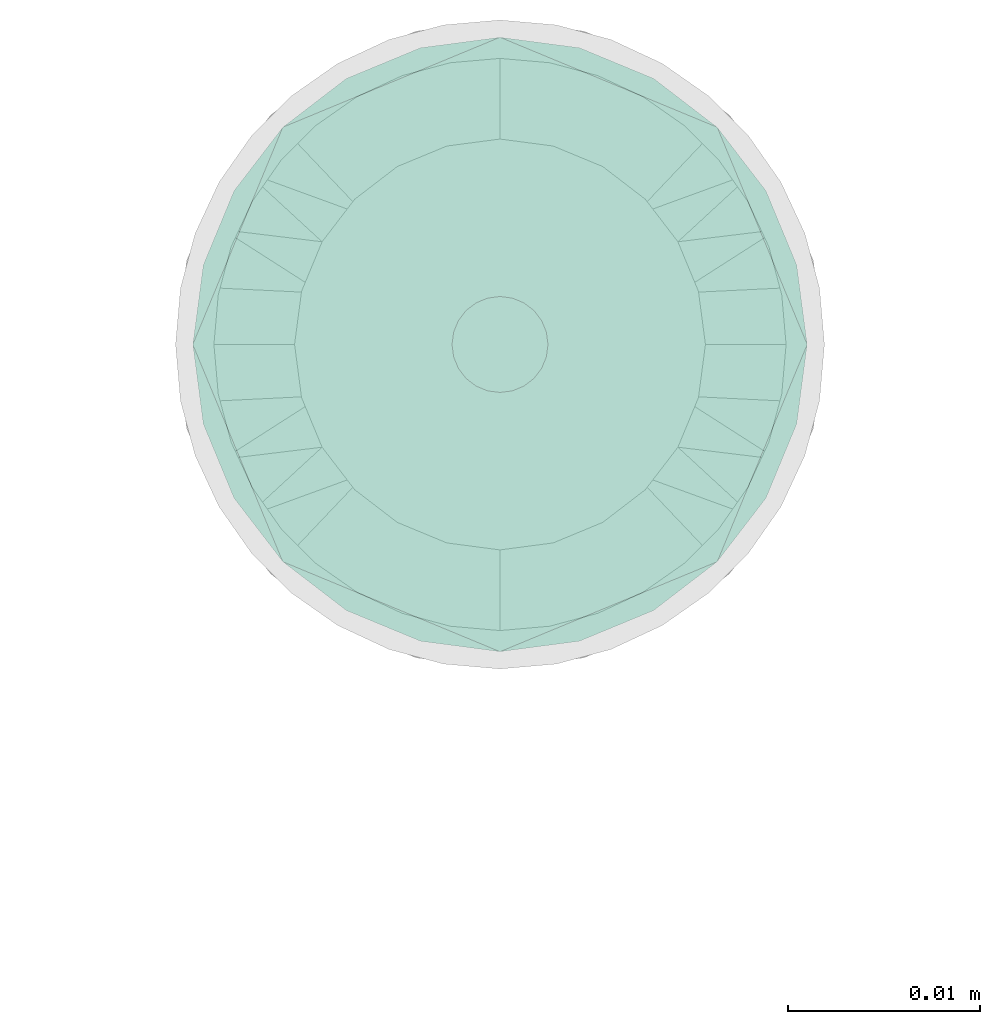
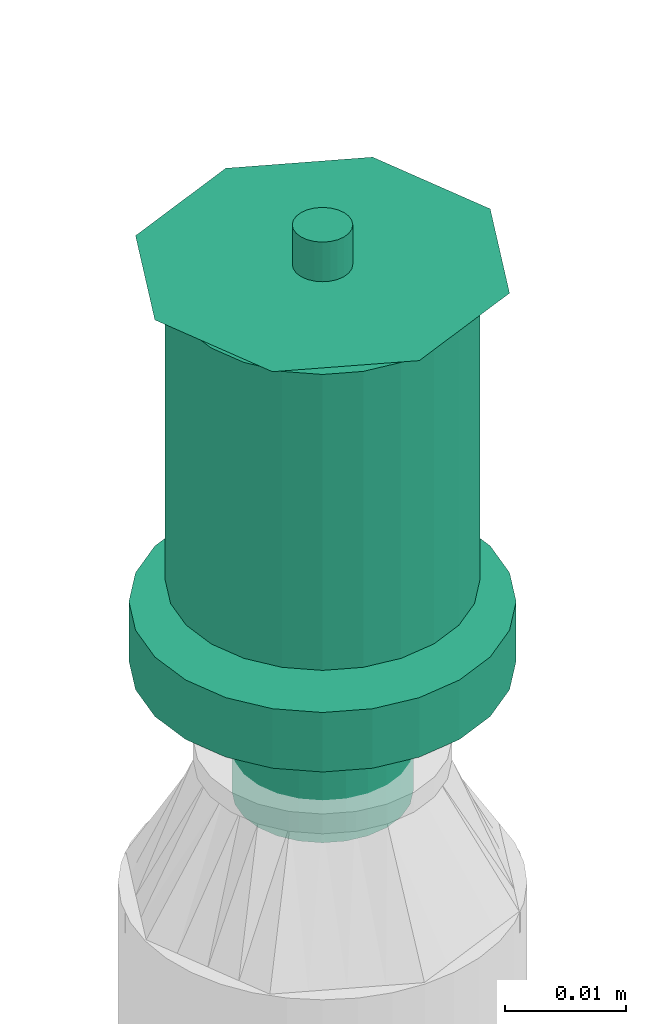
# One storey, part 28 of 44: 1 flow terminal.
"""IFC2X3 building model written with IfcOpenShell, lengths in millimetres."""

import ifcopenshell
import ifcopenshell.guid

model = None  # the IFC model being written
_history = None  # IfcOwnerHistory: only IFC2X3 demands one
_inside = {}  # id of a spatial element -> (the spatial element, [elements in it])
_under = {}  # id of a project, library or spatial element -> (it, [spatial elements below it])
_declared = {}  # id of a project -> (the project, [libraries it declares])
_typed = {}  # id of a type object -> (the type object, [elements of that type])
_made_of = {}  # id of a material, layer set ... -> (it, [elements and type objects made of it])


def new_model(schema):
    """Start an empty IFC model of exactly this schema.

    Asked for "IFC4X3", IfcOpenShell would pick the latest addendum, in which some entities
    have other attributes; the version numbers below select the first issue.
    IFC2X3 requires an IfcOwnerHistory on every rooted entity: one is made here for all.
    """
    global model, _history
    if schema == "IFC4X3":
        model = ifcopenshell.file(schema_version=(4, 3, 0, 0))
    else:
        model = ifcopenshell.file(schema=schema)
    _inside.clear()
    _under.clear()
    _declared.clear()
    _typed.clear()
    _made_of.clear()
    _history = None
    if model.schema == "IFC2X3":
        org = make("IfcOrganization", Name="unknown")
        user = make(
            "IfcPersonAndOrganization",
            ThePerson=make("IfcPerson", FamilyName="unknown"),
            TheOrganization=org,
        )
        app = make(
            "IfcApplication",
            ApplicationDeveloper=org,
            Version="unknown",
            ApplicationFullName="unknown",
            ApplicationIdentifier="unknown",
        )
        _history = make(
            "IfcOwnerHistory",
            OwningUser=user,
            OwningApplication=app,
            ChangeAction="ADDED",
            CreationDate=0,
        )
    return model


def make(cls, **values):
    """One entity of the class cls with the attributes given. An attribute that is None is left unset."""
    return model.create_entity(
        cls, **{name: value for name, value in values.items() if value is not None}
    )


def entity(cls, *values):
    """Any entity or typed value of the class cls, its attributes in the order of the schema. None: left unset."""
    e = model.create_entity(cls)
    for i, value in enumerate(values):
        if value is not None:
            e[i] = value
    return e


def rooted(cls, **values):
    """An entity with a GlobalId (a new one), such as an element, a storey or a relation."""
    return make(cls, GlobalId=ifcopenshell.guid.new(), OwnerHistory=_history, **values)


def si_unit(unit_type, name, prefix=None):
    """IfcSIUnit, for example si_unit("LENGTHUNIT", "METRE", prefix="MILLI")."""
    return make("IfcSIUnit", UnitType=unit_type, Prefix=prefix, Name=name)


def converted_unit(unit_type, name, factor, base, dimensions=None, offset=None):
    """IfcConversionBasedUnit, such as the inch: factor (a typed value) times the base unit."""
    return make(
        "IfcConversionBasedUnit"
        if offset is None
        else "IfcConversionBasedUnitWithOffset",
        ConversionOffset=offset,
        Dimensions=None
        if dimensions is None
        else entity("IfcDimensionalExponents", *dimensions),
        UnitType=unit_type,
        Name=name,
        ConversionFactor=make(
            "IfcMeasureWithUnit", ValueComponent=factor, UnitComponent=base
        ),
    )


def derived_unit(unit_type, elements):
    """IfcDerivedUnit: a product of units, each with its exponent."""
    return make(
        "IfcDerivedUnit",
        Elements=[
            make("IfcDerivedUnitElement", Unit=unit, Exponent=power)
            for unit, power in elements
        ],
        UnitType=unit_type,
    )


def assignment(units):
    """IfcUnitAssignment: the units of a project."""
    return None if units is None else make("IfcUnitAssignment", Units=units)


def point(xyz):
    """IfcCartesianPoint."""
    return None if xyz is None else make("IfcCartesianPoint", Coordinates=xyz)


def direction(xyz):
    """IfcDirection."""
    return None if xyz is None else make("IfcDirection", DirectionRatios=xyz)


def frame(location, z_axis=None, x_axis=None):
    """IfcAxis2Placement3D, a coordinate frame: its origin and axes. An axis left out is left unset."""
    return make(
        "IfcAxis2Placement3D",
        Location=point(location),
        Axis=direction(z_axis),
        RefDirection=direction(x_axis),
    )


def origin_with_axes():
    """The frame at (0, 0, 0) with the z axis (0, 0, 1) and the x axis (1, 0, 0) written out."""
    return frame((0.0, 0.0, 0.0), z_axis=(0.0, 0.0, 1.0), x_axis=(1.0, 0.0, 0.0))


def place(relative_to, where):
    """IfcLocalPlacement: puts the frame where relative to a parent placement (None: the world)."""
    return make(
        "IfcLocalPlacement", PlacementRelTo=relative_to, RelativePlacement=where
    )


def context(
    kind, dimensions, precision=None, world=None, true_north=None, identifier=None
):
    """IfcGeometricRepresentationContext, for example the 3D "Model" context."""
    return make(
        "IfcGeometricRepresentationContext",
        ContextIdentifier=identifier,
        ContextType=kind,
        CoordinateSpaceDimension=dimensions,
        Precision=precision,
        WorldCoordinateSystem=world,
        TrueNorth=true_north,
    )


def subcontext(parent, identifier, kind, view, scale=None):
    """IfcGeometricRepresentationSubContext, for example "Body" below "Model"."""
    return make(
        "IfcGeometricRepresentationSubContext",
        ContextIdentifier=identifier,
        ContextType=kind,
        ParentContext=parent,
        TargetScale=scale,
        TargetView=view,
    )


def project(units=None, contexts=None):
    """IfcProject with its units and contexts."""
    return rooted(
        "IfcProject",
        Name="project",
        RepresentationContexts=contexts,
        UnitsInContext=assignment(units),
    )


def spatial(cls, under=None, at=None, **own):
    """A site, building, storey or space (cls), placed at a placement, below another one or the project."""
    s = rooted(cls, ObjectPlacement=at, **own)
    if under is not None:
        _under.setdefault(under.id(), (under, []))[1].append(s)
    return s


def faces_of(points, faces, orient=None, outer=None):
    """IfcFace entities. A face is a list of loops; a loop is a list of indices into points, from 0.

    orient and outer hold one flag for each loop. By default every Orientation is true, the
    first loop of a face is its IfcFaceOuterBound and the others are IfcFaceBound.
    """
    made = []
    for i, loops in enumerate(faces):
        bounds = []
        for j, loop in enumerate(loops):
            is_outer = j == 0 if outer is None else outer[i][j]
            bounds.append(
                make(
                    "IfcFaceOuterBound" if is_outer else "IfcFaceBound",
                    Bound=make("IfcPolyLoop", Polygon=[points[k] for k in loop]),
                    Orientation=True if orient is None else orient[i][j],
                )
            )
        made.append(make("IfcFace", Bounds=bounds))
    return made


def open_shell(faces, orient=None, outer=None):
    """The faces of one IfcOpenShell. surface_model builds it on its shared points."""
    return ("IfcOpenShell", faces, orient, outer)


def surface_model(cls, points, shells):
    """IfcFaceBasedSurfaceModel or IfcShellBasedSurfaceModel (cls): surfaces that need not close."""
    shared = [point(p) for p in points]
    made = [make(c, CfsFaces=faces_of(shared, fs, o, b)) for c, fs, o, b in shells]
    if cls == "IfcFaceBasedSurfaceModel":
        return make(cls, FbsmFaces=made)
    return make(cls, SbsmBoundary=made)


def shape(context_of_items, identifier, shape_type, items):
    """IfcShapeRepresentation: the items that make up one representation, for example the "Body"."""
    return make(
        "IfcShapeRepresentation",
        ContextOfItems=context_of_items,
        RepresentationIdentifier=identifier,
        RepresentationType=shape_type,
        Items=items,
    )


def source(mapping_origin, context_of_items, identifier, shape_type, items):
    """IfcRepresentationMap: a shape defined once, which mapped items show again and again."""
    return make(
        "IfcRepresentationMap",
        MappingOrigin=mapping_origin,
        MappedRepresentation=shape(context_of_items, identifier, shape_type, items),
    )


def transform(
    local_origin,
    x_axis=None,
    y_axis=None,
    z_axis=None,
    scale=None,
    scale2=None,
    scale3=None,
    uniform=True,
):
    """IfcCartesianTransformationOperator3D, or its non-uniform kind. x_axis, y_axis, z_axis: its Axis1, 2, 3."""
    if uniform:
        return make(
            "IfcCartesianTransformationOperator3D",
            Axis1=direction(x_axis),
            Axis2=direction(y_axis),
            LocalOrigin=point(local_origin),
            Scale=scale,
            Axis3=direction(z_axis),
        )
    return make(
        "IfcCartesianTransformationOperator3DnonUniform",
        Axis1=direction(x_axis),
        Axis2=direction(y_axis),
        LocalOrigin=point(local_origin),
        Scale=scale,
        Axis3=direction(z_axis),
        Scale2=scale2,
        Scale3=scale3,
    )


def mapped(mapping_source, mapping_target):
    """IfcMappedItem: shows the shape of a source again, moved by a transform."""
    return make(
        "IfcMappedItem", MappingSource=mapping_source, MappingTarget=mapping_target
    )


def made_of(thing, what):
    """Note that an element or type object is made of a material, layer set ...; save() writes the relation."""
    if what is not None:
        _made_of.setdefault(what.id(), (what, []))[1].append(thing)
    return thing


def type_object(cls, material=None, **own):
    """A type object (cls), such as IfcWallType, which elements share."""
    return made_of(rooted(cls, **own), material)


def element(
    cls,
    number,
    at=None,
    inside=None,
    cuts=None,
    type_object=None,
    material=None,
    context=None,
    identifier="Body",
    shape_type=None,
    held_by="IfcProductDefinitionShape",
    body=None,
    shapes=None,
    **own,
):
    """One element of the class cls, such as IfcWall. Its Tag is "e" and its number.

    at: its placement. inside: the storey or other place that contains it. cuts: it is an
    opening in that element (IfcRelVoidsElement). A single representation is given by context,
    identifier, shape_type and body (its items); several are given by shapes. held_by: the class
    of the entity that holds the representations. save() writes the other relations.
    """
    e = rooted(cls, Tag="e%d" % number, ObjectPlacement=at, **own)
    if body is not None:
        shapes = [shape(context, identifier, shape_type, body)]
    if shapes is not None:
        e.Representation = make(held_by, Representations=shapes)
    if inside is not None:
        _inside.setdefault(inside.id(), (inside, []))[1].append(e)
    if cuts is not None:
        rooted(
            "IfcRelVoidsElement", RelatingBuildingElement=cuts, RelatedOpeningElement=e
        )
    if type_object is not None:
        _typed.setdefault(type_object.id(), (type_object, []))[1].append(e)
    return made_of(e, material)


def aggregate(whole, parts):
    """IfcRelAggregates: a whole, such as a stair, and the parts it consists of."""
    return rooted("IfcRelAggregates", RelatingObject=whole, RelatedObjects=parts)


def save(model, path):
    """Write the relations noted so far, then the file.

    IfcRelAggregates (storeys below a building ...), IfcRelContainedInSpatialStructure (elements
    in a storey), IfcRelDefinesByType, IfcRelAssociatesMaterial and IfcRelDeclares: one each for
    every whole, place, type object, material and project.
    """
    for whole, parts in _under.values():
        aggregate(whole, parts)
    for where, things in _inside.values():
        rooted(
            "IfcRelContainedInSpatialStructure",
            RelatedElements=things,
            RelatingStructure=where,
        )
    for kind, things in _typed.values():
        rooted("IfcRelDefinesByType", RelatedObjects=things, RelatingType=kind)
    for what, things in _made_of.values():
        rooted("IfcRelAssociatesMaterial", RelatedObjects=things, RelatingMaterial=what)
    for by, libraries in _declared.values():
        rooted("IfcRelDeclares", RelatingContext=by, RelatedDefinitions=libraries)
    model.write(path)


model = new_model("IFC2X3")

# Units and contexts
model_context = context("Model", 3, precision=0.01, world=frame((0.0, 4.29681676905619e-09, 0.0)), true_north=direction((4.01073788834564e-13, 1.0)))
plan_context = context("Plan", 3, precision=0.01, world=frame((0.0, 4.29681676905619e-09, 0.0)), true_north=direction((4.01073788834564e-13, 1.0)))
body_context = subcontext(model_context, "Body", "Model", "MODEL_VIEW")
ifc_project = project(units=[converted_unit("PLANEANGLEUNIT", "DEGREE", entity("IfcPositiveLengthMeasure", 0.0174532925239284), si_unit("PLANEANGLEUNIT", "RADIAN"), dimensions=[0, 0, 0, 0, 0, 0, 0]), si_unit("AREAUNIT", "SQUARE_METRE"), si_unit("LENGTHUNIT", "METRE", prefix="MILLI"), si_unit("MASSUNIT", "GRAM", prefix="KILO"), si_unit("POWERUNIT", "WATT"), si_unit("PRESSUREUNIT", "PASCAL"), si_unit("FORCEUNIT", "NEWTON", prefix="KILO"), si_unit("ELECTRICVOLTAGEUNIT", "VOLT"), si_unit("ELECTRICCURRENTUNIT", "AMPERE"), si_unit("THERMODYNAMICTEMPERATUREUNIT", "DEGREE_CELSIUS"), si_unit("TIMEUNIT", "SECOND"), si_unit("VOLUMEUNIT", "CUBIC_METRE"), derived_unit("LINEARVELOCITYUNIT", [(si_unit("LENGTHUNIT", "METRE"), 1), (si_unit("TIMEUNIT", "SECOND"), -1)]), derived_unit("VOLUMETRICFLOWRATEUNIT", [(si_unit("VOLUMEUNIT", "CUBIC_METRE"), 1), (si_unit("TIMEUNIT", "SECOND"), -1)]), derived_unit("THERMALTRANSMITTANCEUNIT", [(si_unit("POWERUNIT", "WATT"), 1), (si_unit("THERMODYNAMICTEMPERATUREUNIT", "KELVIN"), -1), (si_unit("AREAUNIT", "SQUARE_METRE"), -1)]), derived_unit("SOUNDPRESSUREUNIT", [(si_unit("PRESSUREUNIT", "PASCAL"), 1)])], contexts=[model_context, plan_context])

# Site, building, storey
site_placement = place(None, frame((0.0, -4.29681676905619e-09, 0.0), z_axis=(0.0, 0.0, 1.0), x_axis=(1.0, 0.0, 0.0)))
site = spatial("IfcSite", under=ifc_project, at=site_placement, CompositionType="ELEMENT")
building_placement = place(site_placement, frame((0.0, 4.29681676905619e-09, 0.0), z_axis=(0.0, 0.0, 1.0), x_axis=(1.0, 0.0, 0.0)))
building = spatial("IfcBuilding", under=site, at=building_placement, Name="mc-building", CompositionType="ELEMENT")
storey_placement = place(building_placement, frame((0.0, 0.0, 207370.0), z_axis=(0.0, 0.0, 1.0), x_axis=(1.0, 0.0, 0.0)))
storey = spatial("IfcBuildingStorey", under=building, at=storey_placement, Name="Nivå E", CompositionType="ELEMENT", Elevation=207370.0)

# Flow terminal
fire_suppression_terminal_type = type_object("IfcFireSuppressionTerminalType", Name="68DGR-STD-STÅENDE", PredefinedType="NOTDEFINED")
shared_shape = source(origin_with_axes(), body_context, "Body", "SurfaceModel", [
    surface_model("IfcShellBasedSurfaceModel", [(3.36465, -12.55704, 51.0), (6.5, -11.25833, 51.0), (9.19239, -9.19239, 51.0), (12.55704, -3.36465, 51.0), (-11.25833, -6.5, 51.0), (11.25833, -6.5, 51.0), (-13.0, 0.0, 51.0), (0.0, -13.0, 51.0), (-6.5, -11.25833, 51.0), (-3.36465, -12.55704, 51.0), (-9.19239, -9.19239, 51.0), (-12.55704, -3.36465, 51.0), (13.0, 0.0, 51.0), (12.55704, 3.36465, 51.0), (11.25833, 6.5, 51.0), (9.19239, 9.19239, 51.0), (6.5, 11.25833, 51.0), (3.36465, 12.55704, 51.0), (0.0, 13.0, 51.0), (-3.36465, 12.55704, 51.0), (-12.55704, 3.36465, 51.0), (-9.19239, 9.19239, 51.0), (-11.25833, 6.5, 51.0), (-6.5, 11.25833, 51.0), (0.0, 13.0, 21.14766), (3.36465, 12.55704, 21.14766), (6.5, 11.25833, 21.14766), (-3.36465, 12.55704, 21.14766), (9.19239, 9.19239, 21.14766), (11.25833, 6.5, 21.14766), (12.55704, 3.36465, 21.14766), (-12.55704, 3.36465, 21.14766), (-11.25833, -6.5, 21.14766), (-9.19239, 9.19239, 21.14766), (-6.5, 11.25833, 21.14766), (-11.25833, 6.5, 21.14766), (-13.0, 0.0, 21.14766), (12.55704, -3.36465, 21.14766), (9.19239, -9.19239, 21.14766), (11.25833, -6.5, 21.14766), (6.5, -11.25833, 21.14766), (3.36465, -12.55704, 21.14766), (-6.5, -11.25833, 21.14766), (-9.19239, -9.19239, 21.14766), (-12.55704, -3.36465, 21.14766), (0.0, -13.0, 21.14766), (-3.36465, -12.55704, 21.14766), (13.0, 0.0, 21.14766), (7.24444, -1.94114, 0.1), (1.94114, -7.24444, 0.1), (3.75, -6.49519, 0.1), (5.3033, -5.3033, 0.1), (-5.3033, -5.3033, 0.1), (6.49519, -3.75, 0.1), (5.3033, 5.3033, 0.1), (0.0, -7.5, 0.1), (-3.75, -6.49519, 0.1), (-1.94114, -7.24444, 0.1), (-7.24444, -1.94114, 0.1), (-6.49519, -3.75, 0.1), (-7.24444, 1.94114, 0.1), (7.5, 0.0, 0.1), (6.49519, 3.75, 0.1), (-6.49519, 3.75, 0.1), (1.94114, 7.24444, 0.1), (0.0, 7.5, 0.1), (3.75, 6.49519, 0.1), (-7.5, 0.0, 0.1), (-5.3033, 5.3033, 0.1), (-1.94114, 7.24444, 0.1), (-3.75, 6.49519, 0.1), (7.24444, 1.94114, 0.1), (1.94114, 7.24444, -0.1), (-6.49519, 3.75, -0.1), (0.0, 7.5, -0.1), (5.3033, 5.3033, -0.1), (3.75, 6.49519, -0.1), (6.49519, 3.75, -0.1), (7.24444, 1.94114, -0.1), (-1.94114, 7.24444, -0.1), (-5.3033, 5.3033, -0.1), (-3.75, 6.49519, -0.1), (-7.24444, 1.94114, -0.1), (-7.24444, -1.94114, -0.1), (-7.5, 0.0, -0.1), (7.5, 0.0, -0.1), (7.24444, -1.94114, -0.1), (-5.3033, -5.3033, -0.1), (1.94114, -7.24444, -0.1), (6.49519, -3.75, -0.1), (5.3033, -5.3033, -0.1), (3.75, -6.49519, -0.1), (-6.49519, -3.75, -0.1), (-3.75, -6.49519, -0.1), (0.0, -7.5, -0.1), (-1.94114, -7.24444, -0.1), (0.0, -2.5, 51.0), (-2.5, 0.0, 51.0), (0.0, 2.5, 51.0), (2.5, 0.0, 51.0), (0.0, -16.0, 53.0), (11.31371, -11.31371, 53.0), (-11.31371, -11.31371, 53.0), (-16.0, 0.0, 53.0), (16.0, 0.0, 53.0), (11.31371, 11.31371, 53.0), (0.0, 16.0, 53.0), (-11.31371, 11.31371, 53.0), (1.25, -2.16506, 57.0), (0.0, -2.5, 57.0), (0.64705, -2.41481, 57.0), (2.41481, -0.64705, 57.0), (1.76777, -1.76777, 57.0), (-2.41481, -0.64705, 57.0), (-2.5, 0.0, 57.0), (2.16506, -1.25, 57.0), (-1.25, -2.16506, 57.0), (-0.64705, -2.41481, 57.0), (-1.76777, -1.76777, 57.0), (-2.16506, -1.25, 57.0), (2.5, 0.0, 57.0), (2.41481, 0.64705, 57.0), (2.16506, 1.25, 57.0), (1.76777, 1.76777, 57.0), (0.64705, 2.41481, 57.0), (1.25, 2.16506, 57.0), (-1.76777, 1.76777, 57.0), (0.0, 2.5, 57.0), (-2.16506, 1.25, 57.0), (-2.41481, 0.64705, 57.0), (-0.64705, 2.41481, 57.0), (-1.25, 2.16506, 57.0), (1.25, 2.16506, 51.0), (1.76777, 1.76777, 51.0), (1.15, 1.99186, 51.0), (0.59528, 2.22163, 51.0), (0.64705, 2.41481, 51.0), (0.0, 2.3, 51.0), (1.62635, 1.62635, 51.0), (2.41481, 0.64705, 51.0), (2.3, 0.0, 51.0), (2.22163, 0.59528, 51.0), (2.16506, 1.25, 51.0), (1.99186, 1.15, 51.0), (-0.59528, 2.22163, 51.0), (-0.64705, 2.41481, 51.0), (-1.15, 1.99186, 51.0), (-1.76777, 1.76777, 51.0), (-1.25, 2.16506, 51.0), (-1.62635, 1.62635, 51.0), (-1.99186, 1.15, 51.0), (-2.16506, 1.25, 51.0), (-2.22163, 0.59528, 51.0), (-2.41481, 0.64705, 51.0), (-2.3, 0.0, 51.0), (2.41481, -0.64705, 51.0), (2.22163, -0.59528, 51.0), (1.99186, -1.15, 51.0), (2.16506, -1.25, 51.0), (1.62635, -1.62635, 51.0), (1.76777, -1.76777, 51.0), (1.25, -2.16506, 51.0), (1.15, -1.99186, 51.0), (0.59528, -2.22163, 51.0), (0.64705, -2.41481, 51.0), (0.0, -2.3, 51.0), (-2.16506, -1.25, 51.0), (-1.99186, -1.15, 51.0), (-1.76777, -1.76777, 51.0), (-1.62635, -1.62635, 51.0), (-2.41481, -0.64705, 51.0), (-2.22163, -0.59528, 51.0), (-0.59528, -2.22163, 51.0), (-0.64705, -2.41481, 51.0), (-1.15, -1.99186, 51.0), (-1.25, -2.16506, 51.0), (1.62635, -1.62635, 56.8), (1.15, -1.99186, 56.8), (0.59528, -2.22163, 56.8), (0.0, -2.3, 56.8), (2.22163, 0.59528, 56.8), (1.99186, -1.15, 56.8), (2.22163, -0.59528, 56.8), (-0.59528, -2.22163, 56.8), (-1.15, -1.99186, 56.8), (-1.62635, -1.62635, 56.8), (-1.99186, -1.15, 56.8), (-2.22163, -0.59528, 56.8), (-1.99186, 1.15, 56.8), (2.3, 0.0, 56.8), (1.62635, 1.62635, 56.8), (1.99186, 1.15, 56.8), (1.15, 1.99186, 56.8), (0.0, 2.3, 56.8), (0.59528, 2.22163, 56.8), (-2.22163, 0.59528, 56.8), (-2.3, 0.0, 56.8), (-1.15, 1.99186, 56.8), (-0.59528, 2.22163, 56.8), (-1.62635, 1.62635, 56.8), (4.1411, -15.45481, 19.0), (8.0, -13.85641, 19.0), (11.31371, -11.31371, 19.0), (-8.0, -13.85641, 19.0), (15.45481, -4.1411, 19.0), (16.0, 0.0, 19.0), (13.85641, -8.0, 19.0), (0.0, -16.0, 19.0), (-4.1411, -15.45481, 19.0), (-13.85641, -8.0, 19.0), (-11.31371, -11.31371, 19.0), (-15.45481, -4.1411, 19.0), (15.45481, 4.1411, 19.0), (13.85641, 8.0, 19.0), (11.31371, 11.31371, 19.0), (-4.1411, 15.45481, 19.0), (8.0, 13.85641, 19.0), (4.1411, 15.45481, 19.0), (0.0, 16.0, 19.0), (-13.85641, 8.0, 19.0), (-15.45481, 4.1411, 19.0), (-16.0, 0.0, 19.0), (-11.31371, 11.31371, 19.0), (-8.0, 13.85641, 19.0), (0.0, 16.0, 13.0), (4.1411, 15.45481, 13.0), (8.0, 13.85641, 13.0), (-4.1411, 15.45481, 13.0), (11.31371, 11.31371, 13.0), (13.85641, 8.0, 13.0), (15.45481, 4.1411, 13.0), (-15.45481, -4.1411, 13.0), (-11.31371, 11.31371, 13.0), (-8.0, 13.85641, 13.0), (-13.85641, 8.0, 13.0), (-15.45481, 4.1411, 13.0), (-16.0, 0.0, 13.0), (4.1411, -15.45481, 13.0), (16.0, 0.0, 13.0), (15.45481, -4.1411, 13.0), (13.85641, -8.0, 13.0), (11.31371, -11.31371, 13.0), (8.0, -13.85641, 13.0), (-8.0, -13.85641, 13.0), (-13.85641, -8.0, 13.0), (-11.31371, -11.31371, 13.0), (0.0, -16.0, 13.0), (-4.1411, -15.45481, 13.0), (7.24444, -1.94114, 13.0), (1.94114, -7.24444, 13.0), (3.75, -6.49519, 13.0), (5.3033, -5.3033, 13.0), (-5.3033, -5.3033, 13.0), (6.49519, -3.75, 13.0), (5.3033, 5.3033, 13.0), (0.0, -7.5, 13.0), (-3.75, -6.49519, 13.0), (-1.94114, -7.24444, 13.0), (-7.24444, -1.94114, 13.0), (-6.49519, -3.75, 13.0), (-7.24444, 1.94114, 13.0), (7.5, 0.0, 13.0), (6.49519, 3.75, 13.0), (-6.49519, 3.75, 13.0), (1.94114, 7.24444, 13.0), (0.0, 7.5, 13.0), (3.75, 6.49519, 13.0), (-7.5, 0.0, 13.0), (-5.3033, 5.3033, 13.0), (-1.94114, 7.24444, 13.0), (-3.75, 6.49519, 13.0), (7.24444, 1.94114, 13.0), (3.75, 6.49519, 0.0), (5.3033, 5.3033, 0.0), (3.65, 6.32199, 0.0), (1.88938, 7.05126, 0.0), (0.0, 7.3, 0.0), (1.94114, 7.24444, 0.0), (0.0, 7.5, 0.0), (5.16188, 5.16188, 0.0), (7.24444, 1.94114, 0.0), (7.3, 0.0, 0.0), (7.05126, 1.88938, 0.0), (7.5, 0.0, 0.0), (6.49519, 3.75, 0.0), (6.32199, 3.65, 0.0), (-1.88938, 7.05126, 0.0), (-1.94114, 7.24444, 0.0), (-3.65, 6.32199, 0.0), (-5.3033, 5.3033, 0.0), (-3.75, 6.49519, 0.0), (-5.16188, 5.16188, 0.0), (-6.32199, 3.65, 0.0), (-6.49519, 3.75, 0.0), (-7.05126, 1.88938, 0.0), (-7.24444, 1.94114, 0.0), (-7.3, 0.0, 0.0), (-7.5, 0.0, 0.0), (7.24444, -1.94114, 0.0), (7.05126, -1.88938, 0.0), (6.32199, -3.65, 0.0), (6.49519, -3.75, 0.0), (5.16188, -5.16188, 0.0), (5.3033, -5.3033, 0.0), (3.75, -6.49519, 0.0), (3.65, -6.32199, 0.0), (1.88938, -7.05126, 0.0), (1.94114, -7.24444, 0.0), (0.0, -7.3, 0.0), (0.0, -7.5, 0.0), (-6.49519, -3.75, 0.0), (-6.32199, -3.65, 0.0), (-5.3033, -5.3033, 0.0), (-5.16188, -5.16188, 0.0), (-7.24444, -1.94114, 0.0), (-7.05126, -1.88938, 0.0), (-1.88938, -7.05126, 0.0), (-1.94114, -7.24444, 0.0), (-3.65, -6.32199, 0.0), (-3.75, -6.49519, 0.0), (1.88938, -7.05126, 12.8), (0.0, -7.3, 12.8), (3.65, -6.32199, 12.8), (5.16188, -5.16188, 12.8), (6.32199, -3.65, 12.8), (7.05126, 1.88938, 12.8), (7.05126, -1.88938, 12.8), (-5.16188, -5.16188, 12.8), (-1.88938, -7.05126, 12.8), (-3.65, -6.32199, 12.8), (-6.32199, -3.65, 12.8), (-7.05126, -1.88938, 12.8), (0.0, 7.3, 12.8), (7.3, 0.0, 12.8), (6.32199, 3.65, 12.8), (5.16188, 5.16188, 12.8), (3.65, 6.32199, 12.8), (1.88938, 7.05126, 12.8), (-6.32199, 3.65, 12.8), (-7.05126, 1.88938, 12.8), (-7.3, 0.0, 12.8), (-3.65, 6.32199, 12.8), (-1.88938, 7.05126, 12.8), (-5.16188, 5.16188, 12.8)], [open_shell([[[0, 1, 2]], [[0, 2, 3]], [[0, 3, 4]], [[3, 2, 5]], [[6, 4, 3]], [[7, 8, 9]], [[7, 0, 8]], [[8, 4, 10]], [[0, 4, 8]], [[4, 6, 11]], [[6, 3, 12]], [[13, 14, 15]], [[6, 13, 15]], [[16, 17, 18]], [[15, 16, 19]], [[18, 19, 16]], [[20, 21, 22]], [[20, 6, 15]], [[21, 19, 23]], [[19, 21, 20]], [[15, 19, 20]], [[13, 6, 12]], [[24, 25, 26]], [[27, 24, 26]], [[28, 29, 30]], [[26, 28, 31]], [[28, 32, 31]], [[27, 33, 34]], [[33, 27, 31]], [[33, 31, 35]], [[27, 26, 31]], [[31, 32, 36]], [[32, 28, 30]], [[32, 30, 37]], [[38, 37, 39]], [[38, 40, 41]], [[38, 41, 37]], [[32, 37, 41]], [[32, 42, 43]], [[44, 36, 32]], [[42, 45, 46]], [[42, 32, 41]], [[45, 42, 41]], [[30, 47, 37]], [[4, 32, 43]], [[8, 42, 46]], [[43, 42, 10]], [[9, 46, 45]], [[36, 11, 6]], [[11, 36, 44]], [[11, 44, 4]], [[44, 32, 4]], [[43, 10, 4]], [[8, 10, 42]], [[46, 9, 8]], [[45, 7, 9]], [[0, 41, 40]], [[38, 1, 40]], [[5, 39, 37]], [[38, 39, 2]], [[3, 37, 47]], [[41, 0, 7]], [[40, 1, 0]], [[38, 2, 1]], [[39, 5, 2]], [[3, 5, 37]], [[47, 12, 3]], [[41, 7, 45]], [[30, 13, 47]], [[29, 14, 30]], [[25, 24, 17]], [[15, 29, 28]], [[30, 14, 13]], [[13, 12, 47]], [[16, 26, 17]], [[16, 15, 28]], [[26, 25, 17]], [[15, 14, 29]], [[28, 26, 16]], [[24, 18, 17]], [[19, 27, 34]], [[33, 23, 34]], [[22, 35, 31]], [[33, 35, 21]], [[20, 31, 36]], [[27, 19, 18]], [[34, 23, 19]], [[33, 21, 23]], [[35, 22, 21]], [[20, 22, 31]], [[36, 6, 20]], [[27, 18, 24]], [[48, 49, 50]], [[48, 50, 51]], [[49, 48, 52]], [[48, 51, 53]], [[54, 52, 48]], [[55, 56, 57]], [[56, 55, 52]], [[52, 58, 59]], [[52, 55, 49]], [[52, 60, 58]], [[54, 48, 61]], [[62, 54, 61]], [[54, 63, 52]], [[64, 65, 54]], [[64, 54, 66]], [[63, 54, 65]], [[63, 60, 52]], [[67, 58, 60]], [[68, 69, 70]], [[69, 68, 63]], [[69, 63, 65]], [[71, 62, 61]], [[72, 73, 74]], [[75, 72, 76]], [[75, 77, 78]], [[72, 75, 73]], [[78, 73, 75]], [[79, 80, 81]], [[80, 79, 73]], [[74, 73, 79]], [[78, 82, 73]], [[82, 83, 84]], [[82, 78, 85]], [[86, 87, 85]], [[88, 86, 89]], [[90, 91, 88]], [[90, 88, 89]], [[87, 86, 88]], [[83, 87, 92]], [[83, 85, 87]], [[93, 94, 95]], [[94, 93, 87]], [[88, 94, 87]], [[85, 83, 82]], [[83, 58, 84]], [[92, 59, 83]], [[56, 87, 93]], [[92, 87, 52]], [[57, 93, 95]], [[83, 59, 58]], [[58, 67, 84]], [[57, 56, 93]], [[52, 87, 56]], [[52, 59, 92]], [[55, 57, 95]], [[95, 94, 55]], [[88, 49, 94]], [[91, 50, 88]], [[53, 90, 89]], [[91, 90, 51]], [[48, 89, 86]], [[91, 51, 50]], [[50, 49, 88]], [[61, 48, 86]], [[53, 89, 48]], [[53, 51, 90]], [[85, 61, 86]], [[94, 49, 55]], [[78, 71, 85]], [[77, 62, 78]], [[66, 75, 76]], [[77, 75, 54]], [[64, 76, 72]], [[78, 62, 71]], [[71, 61, 85]], [[64, 66, 76]], [[54, 75, 66]], [[54, 62, 77]], [[65, 64, 72]], [[72, 74, 65]], [[79, 69, 74]], [[81, 70, 79]], [[63, 80, 73]], [[81, 80, 68]], [[60, 73, 82]], [[81, 68, 70]], [[70, 69, 79]], [[67, 60, 82]], [[63, 73, 60]], [[63, 68, 80]], [[84, 67, 82]], [[74, 69, 65]], [[96, 97, 98]], [[98, 99, 96]], [[100, 101, 102]], [[103, 102, 101]], [[101, 104, 103]], [[104, 105, 106]], [[107, 103, 106]], [[106, 103, 104]], [[99, 98, 105]], [[105, 104, 99]], [[98, 106, 105]], [[98, 107, 106]], [[107, 98, 97]], [[103, 107, 97]], [[97, 96, 102]], [[102, 103, 97]], [[96, 100, 102]], [[96, 101, 100]], [[101, 96, 99]], [[104, 101, 99]], [[108, 109, 110]], [[111, 108, 112]], [[113, 108, 114]], [[111, 112, 115]], [[108, 111, 114]], [[109, 116, 117]], [[116, 109, 118]], [[118, 113, 119]], [[118, 109, 108]], [[108, 113, 118]], [[111, 120, 114]], [[121, 122, 123]], [[114, 121, 123]], [[114, 123, 124]], [[124, 123, 125]], [[126, 124, 127]], [[124, 128, 129]], [[129, 114, 124]], [[126, 130, 131]], [[128, 124, 126]], [[130, 126, 127]], [[121, 114, 120]], [[132, 133, 134]], [[132, 134, 135]], [[136, 135, 137]], [[135, 136, 132]], [[136, 137, 98]], [[134, 133, 138]], [[139, 140, 141]], [[140, 139, 99]], [[139, 141, 142]], [[138, 142, 143]], [[142, 138, 133]], [[143, 142, 141]], [[98, 144, 145]], [[98, 137, 144]], [[145, 144, 146]], [[147, 148, 149]], [[146, 148, 145]], [[149, 148, 146]], [[150, 151, 147]], [[151, 150, 152]], [[150, 147, 149]], [[153, 152, 154]], [[152, 153, 151]], [[153, 154, 97]], [[99, 155, 156]], [[156, 155, 157]], [[157, 158, 159]], [[158, 157, 155]], [[159, 158, 160]], [[160, 161, 162]], [[162, 161, 163]], [[163, 164, 165]], [[164, 163, 161]], [[165, 164, 96]], [[162, 159, 160]], [[166, 167, 168]], [[168, 167, 169]], [[167, 166, 170]], [[97, 171, 170]], [[170, 171, 167]], [[97, 154, 171]], [[172, 96, 173]], [[172, 173, 174]], [[169, 175, 168]], [[175, 169, 174]], [[175, 174, 173]], [[165, 96, 172]], [[156, 140, 99]], [[170, 113, 97]], [[166, 119, 170]], [[116, 168, 175]], [[166, 168, 118]], [[117, 175, 173]], [[170, 119, 113]], [[113, 114, 97]], [[117, 116, 175]], [[118, 168, 116]], [[118, 119, 166]], [[109, 117, 173]], [[173, 96, 109]], [[164, 110, 96]], [[161, 108, 164]], [[115, 160, 158]], [[161, 160, 112]], [[111, 158, 155]], [[161, 112, 108]], [[108, 110, 164]], [[120, 111, 155]], [[115, 158, 111]], [[115, 112, 160]], [[99, 120, 155]], [[96, 110, 109]], [[139, 121, 99]], [[142, 122, 139]], [[125, 133, 132]], [[142, 133, 123]], [[124, 132, 136]], [[139, 122, 121]], [[121, 120, 99]], [[124, 125, 132]], [[123, 133, 125]], [[123, 122, 142]], [[127, 124, 136]], [[136, 98, 127]], [[145, 130, 98]], [[148, 131, 145]], [[128, 147, 151]], [[148, 147, 126]], [[129, 151, 153]], [[148, 126, 131]], [[131, 130, 145]], [[114, 129, 153]], [[128, 151, 129]], [[128, 126, 147]], [[97, 114, 153]], [[98, 130, 127]], [[176, 177, 178]], [[176, 178, 179]], [[180, 176, 179]], [[181, 176, 182]], [[180, 182, 176]], [[183, 184, 179]], [[185, 179, 184]], [[186, 187, 185]], [[185, 187, 188]], [[179, 185, 188]], [[189, 182, 180]], [[190, 191, 180]], [[192, 190, 180]], [[193, 194, 192]], [[180, 193, 192]], [[188, 193, 180]], [[195, 188, 196]], [[196, 188, 187]], [[197, 198, 199]], [[188, 199, 198]], [[188, 198, 193]], [[180, 179, 188]], [[154, 187, 171]], [[171, 186, 167]], [[174, 169, 184]], [[185, 169, 167]], [[172, 174, 183]], [[187, 186, 171]], [[154, 196, 187]], [[174, 184, 183]], [[184, 169, 185]], [[167, 186, 185]], [[172, 183, 179]], [[179, 165, 172]], [[165, 178, 163]], [[163, 177, 162]], [[157, 159, 181]], [[176, 159, 162]], [[156, 157, 182]], [[177, 176, 162]], [[163, 178, 177]], [[156, 182, 189]], [[182, 157, 181]], [[159, 176, 181]], [[156, 189, 140]], [[179, 178, 165]], [[140, 180, 141]], [[141, 191, 143]], [[134, 138, 192]], [[190, 138, 143]], [[135, 134, 194]], [[180, 191, 141]], [[140, 189, 180]], [[134, 192, 194]], [[192, 138, 190]], [[143, 191, 190]], [[135, 194, 193]], [[193, 137, 135]], [[137, 198, 144]], [[144, 197, 146]], [[150, 149, 188]], [[199, 149, 146]], [[152, 150, 195]], [[197, 199, 146]], [[144, 198, 197]], [[152, 195, 196]], [[195, 150, 188]], [[149, 199, 188]], [[152, 196, 154]], [[193, 198, 137]], [[200, 201, 202]], [[203, 200, 202]], [[204, 205, 202]], [[204, 202, 206]], [[203, 202, 205]], [[207, 203, 208]], [[207, 200, 203]], [[203, 209, 210]], [[209, 203, 211]], [[205, 211, 203]], [[205, 212, 211]], [[212, 213, 214]], [[215, 212, 214]], [[216, 217, 218]], [[214, 216, 215]], [[218, 215, 216]], [[211, 219, 220]], [[221, 211, 220]], [[222, 215, 223]], [[215, 222, 219]], [[219, 211, 215]], [[211, 212, 215]], [[224, 225, 226]], [[227, 224, 226]], [[228, 229, 230]], [[227, 226, 228]], [[227, 228, 231]], [[227, 232, 233]], [[232, 227, 234]], [[234, 231, 235]], [[231, 234, 227]], [[235, 231, 236]], [[228, 230, 231]], [[237, 238, 239]], [[237, 239, 240]], [[241, 242, 237]], [[241, 237, 240]], [[238, 237, 243]], [[244, 243, 245]], [[243, 244, 231]], [[243, 246, 247]], [[243, 231, 238]], [[237, 246, 243]], [[238, 231, 230]], [[231, 211, 236]], [[244, 209, 231]], [[203, 245, 243]], [[244, 245, 210]], [[208, 243, 247]], [[231, 209, 211]], [[211, 221, 236]], [[208, 203, 243]], [[210, 245, 203]], [[210, 209, 244]], [[207, 208, 247]], [[247, 246, 207]], [[237, 200, 246]], [[242, 201, 237]], [[206, 241, 240]], [[242, 241, 202]], [[204, 240, 239]], [[242, 202, 201]], [[201, 200, 237]], [[205, 204, 239]], [[206, 240, 204]], [[206, 202, 241]], [[238, 205, 239]], [[246, 200, 207]], [[230, 212, 238]], [[229, 213, 230]], [[216, 228, 226]], [[229, 228, 214]], [[217, 226, 225]], [[230, 213, 212]], [[212, 205, 238]], [[217, 216, 226]], [[214, 228, 216]], [[214, 213, 229]], [[218, 217, 225]], [[225, 224, 218]], [[227, 215, 224]], [[233, 223, 227]], [[219, 232, 234]], [[233, 232, 222]], [[220, 234, 235]], [[233, 222, 223]], [[223, 215, 227]], [[221, 220, 235]], [[219, 234, 220]], [[219, 222, 232]], [[236, 221, 235]], [[224, 215, 218]], [[248, 249, 250]], [[248, 250, 251]], [[249, 248, 252]], [[248, 251, 253]], [[254, 252, 248]], [[255, 256, 257]], [[256, 255, 252]], [[252, 258, 259]], [[252, 255, 249]], [[252, 260, 258]], [[254, 248, 261]], [[262, 254, 261]], [[254, 263, 252]], [[264, 265, 254]], [[264, 254, 266]], [[263, 254, 265]], [[263, 260, 252]], [[267, 258, 260]], [[268, 269, 270]], [[269, 268, 263]], [[269, 263, 265]], [[271, 262, 261]], [[272, 273, 274]], [[272, 274, 275]], [[276, 277, 275]], [[277, 276, 278]], [[275, 277, 272]], [[274, 273, 279]], [[280, 281, 282]], [[281, 280, 283]], [[280, 282, 284]], [[279, 284, 285]], [[284, 279, 273]], [[285, 284, 282]], [[278, 286, 287]], [[287, 286, 288]], [[289, 290, 291]], [[288, 290, 287]], [[288, 291, 290]], [[278, 276, 286]], [[292, 293, 289]], [[293, 292, 294]], [[292, 289, 291]], [[295, 294, 296]], [[294, 295, 293]], [[295, 296, 297]], [[283, 298, 299]], [[299, 298, 300]], [[300, 301, 302]], [[301, 300, 298]], [[302, 301, 303]], [[303, 304, 305]], [[305, 304, 306]], [[306, 307, 308]], [[307, 306, 304]], [[308, 307, 309]], [[305, 302, 303]], [[310, 311, 312]], [[312, 311, 313]], [[311, 310, 314]], [[297, 315, 314]], [[314, 315, 311]], [[297, 296, 315]], [[316, 309, 317]], [[316, 317, 318]], [[313, 319, 312]], [[313, 318, 319]], [[319, 318, 317]], [[308, 309, 316]], [[299, 281, 283]], [[314, 258, 297]], [[310, 259, 314]], [[256, 312, 319]], [[310, 312, 252]], [[257, 319, 317]], [[314, 259, 258]], [[258, 267, 297]], [[257, 256, 319]], [[252, 312, 256]], [[252, 259, 310]], [[255, 257, 317]], [[317, 309, 255]], [[307, 249, 309]], [[304, 250, 307]], [[253, 303, 301]], [[304, 303, 251]], [[248, 301, 298]], [[304, 251, 250]], [[250, 249, 307]], [[261, 248, 298]], [[253, 301, 248]], [[253, 251, 303]], [[283, 261, 298]], [[309, 249, 255]], [[280, 271, 283]], [[284, 262, 280]], [[266, 273, 272]], [[284, 273, 254]], [[264, 272, 277]], [[280, 262, 271]], [[271, 261, 283]], [[264, 266, 272]], [[254, 273, 266]], [[254, 262, 284]], [[265, 264, 277]], [[277, 278, 265]], [[287, 269, 278]], [[290, 270, 287]], [[263, 289, 293]], [[290, 289, 268]], [[260, 293, 295]], [[290, 268, 270]], [[270, 269, 287]], [[267, 260, 295]], [[263, 293, 260]], [[263, 268, 289]], [[297, 267, 295]], [[278, 269, 265]], [[320, 321, 322]], [[323, 322, 324]], [[325, 326, 322]], [[324, 322, 326]], [[322, 327, 325]], [[328, 329, 321]], [[327, 321, 329]], [[330, 331, 327]], [[322, 321, 327]], [[331, 332, 327]], [[326, 325, 333]], [[334, 325, 332]], [[335, 334, 336]], [[332, 337, 336]], [[334, 332, 336]], [[331, 338, 332]], [[339, 338, 340]], [[340, 338, 331]], [[341, 342, 343]], [[332, 338, 343]], [[332, 343, 342]], [[332, 325, 327]], [[296, 331, 315]], [[315, 330, 311]], [[318, 313, 329]], [[327, 313, 311]], [[316, 318, 328]], [[331, 330, 315]], [[296, 340, 331]], [[318, 329, 328]], [[329, 313, 327]], [[311, 330, 327]], [[316, 328, 321]], [[321, 308, 316]], [[308, 320, 306]], [[306, 322, 305]], [[300, 302, 324]], [[323, 302, 305]], [[299, 300, 326]], [[322, 323, 305]], [[306, 320, 322]], [[299, 326, 333]], [[326, 300, 324]], [[302, 323, 324]], [[299, 333, 281]], [[321, 320, 308]], [[281, 325, 282]], [[282, 334, 285]], [[274, 279, 336]], [[335, 279, 285]], [[275, 274, 337]], [[325, 334, 282]], [[281, 333, 325]], [[274, 336, 337]], [[336, 279, 335]], [[285, 334, 335]], [[275, 337, 332]], [[332, 276, 275]], [[276, 342, 286]], [[286, 341, 288]], [[292, 291, 338]], [[343, 291, 288]], [[294, 292, 339]], [[341, 343, 288]], [[286, 342, 341]], [[294, 339, 340]], [[339, 292, 338]], [[291, 343, 338]], [[294, 340, 296]], [[332, 342, 276]]])]),
])
flow_terminal_placement = place(storey_placement, frame((524500.5875, 459009.83177, 3036.95754999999), z_axis=(0.0, 0.0, 1.0), x_axis=(1.0, 0.0, 0.0)))
element("IfcFlowTerminal", 1, at=flow_terminal_placement, inside=storey, type_object=fire_suppression_terminal_type, Name="68DGR-STD-STÅENDE", context=body_context, shape_type="MappedRepresentation", body=[
    mapped(shared_shape, transform((0.0, 0.0, 0.0), scale=1.0)),
])

save(model, "model.ifc")
